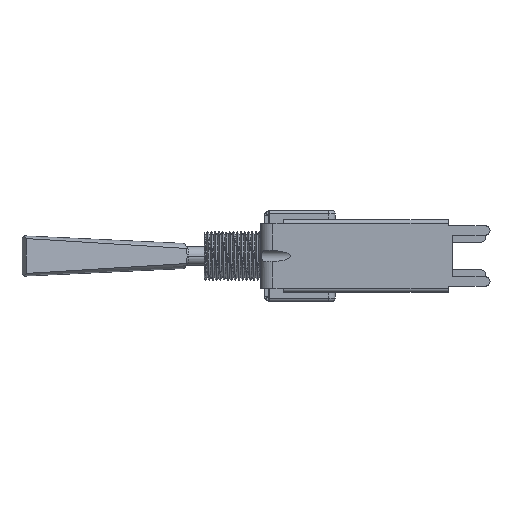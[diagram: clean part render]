
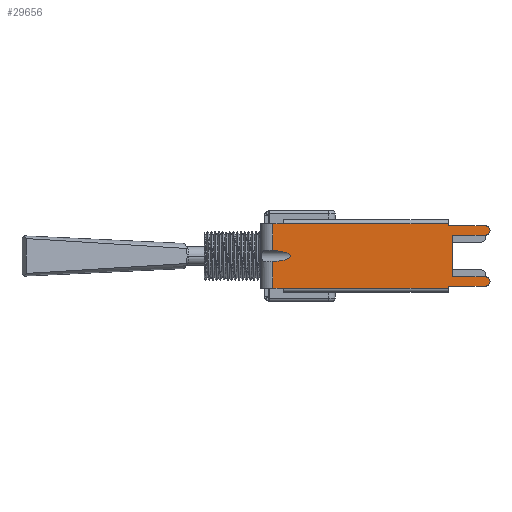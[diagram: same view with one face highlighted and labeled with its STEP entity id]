
A CAD part, left-side view. The second image highlights one B-rep face of the part: STEP entity #29656.
In plain terms, the highlighted planar face has unit normal (-1, 0, 0).
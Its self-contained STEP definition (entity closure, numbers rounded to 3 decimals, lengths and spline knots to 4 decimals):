
#773=DIRECTION('',(0.,0.,1.));
#774=VECTOR('',#773,0.1317);
#775=CARTESIAN_POINT('',(-0.385,0.1453,-0.16));
#776=LINE('',#775,#774);
#777=CARTESIAN_POINT('',(-0.385,0.1453,0.0283));
#778=CARTESIAN_POINT('',(-0.385,0.144,0.0282));
#779=CARTESIAN_POINT('',(-0.385,0.1416,0.0281));
#780=CARTESIAN_POINT('',(-0.385,0.1375,0.0278));
#781=CARTESIAN_POINT('',(-0.385,0.133,0.0274));
#782=CARTESIAN_POINT('',(-0.385,0.1284,0.027));
#783=CARTESIAN_POINT('',(-0.385,0.123,0.0264));
#784=CARTESIAN_POINT('',(-0.385,0.1171,0.0257));
#785=CARTESIAN_POINT('',(-0.385,0.1112,0.0248));
#786=CARTESIAN_POINT('',(-0.385,0.1059,0.0239));
#787=CARTESIAN_POINT('',(-0.385,0.0997,0.0227));
#788=CARTESIAN_POINT('',(-0.385,0.093,0.0212));
#789=CARTESIAN_POINT('',(-0.385,0.0863,0.0195));
#790=CARTESIAN_POINT('',(-0.385,0.0806,0.0177));
#791=CARTESIAN_POINT('',(-0.385,0.0758,0.0159));
#792=CARTESIAN_POINT('',(-0.385,0.0716,0.0142));
#793=CARTESIAN_POINT('',(-0.385,0.0681,0.0124));
#794=CARTESIAN_POINT('',(-0.385,0.0642,0.01));
#795=CARTESIAN_POINT('',(-0.385,0.0606,0.0071));
#796=CARTESIAN_POINT('',(-0.385,0.0581,0.0035));
#797=CARTESIAN_POINT('',(-0.385,0.0572,0.));
#798=CARTESIAN_POINT('',(-0.385,0.0581,-0.0035));
#799=CARTESIAN_POINT('',(-0.385,0.0606,-0.0071));
#800=CARTESIAN_POINT('',(-0.385,0.0642,-0.01));
#801=CARTESIAN_POINT('',(-0.385,0.0681,-0.0124));
#802=CARTESIAN_POINT('',(-0.385,0.0716,-0.0142));
#803=CARTESIAN_POINT('',(-0.385,0.0758,-0.0159));
#804=CARTESIAN_POINT('',(-0.385,0.0806,-0.0177));
#805=CARTESIAN_POINT('',(-0.385,0.0863,-0.0195));
#806=CARTESIAN_POINT('',(-0.385,0.093,-0.0212));
#807=CARTESIAN_POINT('',(-0.385,0.0997,-0.0227));
#808=CARTESIAN_POINT('',(-0.385,0.1059,-0.0239));
#809=CARTESIAN_POINT('',(-0.385,0.1112,-0.0248));
#810=CARTESIAN_POINT('',(-0.385,0.1171,-0.0257));
#811=CARTESIAN_POINT('',(-0.385,0.123,-0.0264));
#812=CARTESIAN_POINT('',(-0.385,0.1284,-0.027));
#813=CARTESIAN_POINT('',(-0.385,0.133,-0.0274));
#814=CARTESIAN_POINT('',(-0.385,0.1375,-0.0278));
#815=CARTESIAN_POINT('',(-0.385,0.1416,-0.0281));
#816=CARTESIAN_POINT('',(-0.385,0.144,-0.0282));
#817=CARTESIAN_POINT('',(-0.385,0.1453,-0.0283));
#819=DIRECTION('',(0.,0.,1.));
#820=VECTOR('',#819,0.1317);
#821=CARTESIAN_POINT('',(-0.385,0.1453,0.0283));
#822=LINE('',#821,#820);
#823=DIRECTION('',(0.,0.,-1.));
#824=VECTOR('',#823,0.01);
#825=CARTESIAN_POINT('',(-0.385,-0.7268,0.16));
#826=LINE('',#825,#824);
#827=DIRECTION('',(0.,-1.,0.));
#828=VECTOR('',#827,0.021);
#829=CARTESIAN_POINT('',(-0.385,-0.7268,0.15));
#830=LINE('',#829,#828);
#831=DIRECTION('',(0.,1.,0.));
#832=VECTOR('',#831,0.1635);
#833=CARTESIAN_POINT('',(-0.385,-0.9113,0.15));
#834=LINE('',#833,#832);
#835=CARTESIAN_POINT('',(-0.385,-0.9113,0.1265));
#836=DIRECTION('',(1.,0.,0.));
#837=DIRECTION('',(0.,0.,1.));
#838=AXIS2_PLACEMENT_3D('',#835,#836,#837);
#840=DIRECTION('',(0.,-1.,0.));
#841=VECTOR('',#840,0.1635);
#842=CARTESIAN_POINT('',(-0.385,-0.7478,0.103));
#843=LINE('',#842,#841);
#844=DIRECTION('',(0.,0.,1.));
#845=VECTOR('',#844,0.206);
#846=CARTESIAN_POINT('',(-0.385,-0.7478,-0.103));
#847=LINE('',#846,#845);
#848=DIRECTION('',(0.,1.,0.));
#849=VECTOR('',#848,0.1635);
#850=CARTESIAN_POINT('',(-0.385,-0.9113,-0.103));
#851=LINE('',#850,#849);
#852=CARTESIAN_POINT('',(-0.385,-0.9113,-0.1265));
#853=DIRECTION('',(1.,0.,0.));
#854=DIRECTION('',(0.,0.,1.));
#855=AXIS2_PLACEMENT_3D('',#852,#853,#854);
#857=DIRECTION('',(0.,-1.,0.));
#858=VECTOR('',#857,0.1635);
#859=CARTESIAN_POINT('',(-0.385,-0.7478,-0.15));
#860=LINE('',#859,#858);
#861=DIRECTION('',(0.,1.,0.));
#862=VECTOR('',#861,0.021);
#863=CARTESIAN_POINT('',(-0.385,-0.7478,-0.15));
#864=LINE('',#863,#862);
#865=DIRECTION('',(0.,0.,1.));
#866=VECTOR('',#865,0.01);
#867=CARTESIAN_POINT('',(-0.385,-0.7268,-0.16));
#868=LINE('',#867,#866);
#877=DIRECTION('',(0.,-1.,0.));
#878=VECTOR('',#877,0.054);
#879=CARTESIAN_POINT('',(-0.385,0.1453,-0.16));
#880=LINE('',#879,#878);
#894=DIRECTION('',(0.,1.,0.));
#895=VECTOR('',#894,0.818);
#896=CARTESIAN_POINT('',(-0.385,-0.7268,-0.16));
#897=LINE('',#896,#895);
#961=CARTESIAN_POINT('',(-0.385,0.1453,-0.0283));
#1028=CARTESIAN_POINT('',(-0.385,0.1453,0.0283));
#24689=DIRECTION('',(0.,-1.,0.));
#24690=VECTOR('',#24689,0.054);
#24691=CARTESIAN_POINT('',(-0.385,0.1453,0.16));
#24692=LINE('',#24691,#24690);
#24714=DIRECTION('',(0.,-1.,0.));
#24715=VECTOR('',#24714,0.818);
#24716=CARTESIAN_POINT('',(-0.385,0.0913,0.16));
#24717=LINE('',#24716,#24715);
#27739=CARTESIAN_POINT('',(-0.385,0.1453,-0.16));
#27740=VERTEX_POINT('',#27739);
#27747=CARTESIAN_POINT('',(-0.385,0.1453,0.16));
#27748=VERTEX_POINT('',#27747);
#27765=CARTESIAN_POINT('',(-0.385,-0.7478,-0.103));
#27766=CARTESIAN_POINT('',(-0.385,-0.7478,0.103));
#27767=VERTEX_POINT('',#27765);
#27768=VERTEX_POINT('',#27766);
#27785=CARTESIAN_POINT('',(-0.385,-0.9113,0.103));
#27786=VERTEX_POINT('',#27785);
#27787=CARTESIAN_POINT('',(-0.385,-0.9113,0.15));
#27788=VERTEX_POINT('',#27787);
#27793=CARTESIAN_POINT('',(-0.385,-0.9113,-0.15));
#27794=VERTEX_POINT('',#27793);
#27795=CARTESIAN_POINT('',(-0.385,-0.9113,-0.103));
#27796=VERTEX_POINT('',#27795);
#27813=VERTEX_POINT('',#961);
#27814=VERTEX_POINT('',#1028);
#27829=CARTESIAN_POINT('',(-0.385,-0.7268,0.16));
#27830=CARTESIAN_POINT('',(-0.385,-0.7268,0.15));
#27831=VERTEX_POINT('',#27829);
#27832=VERTEX_POINT('',#27830);
#27833=CARTESIAN_POINT('',(-0.385,-0.7478,0.15));
#27834=VERTEX_POINT('',#27833);
#27835=CARTESIAN_POINT('',(-0.385,-0.7478,-0.15));
#27836=CARTESIAN_POINT('',(-0.385,-0.7268,-0.15));
#27837=VERTEX_POINT('',#27835);
#27838=VERTEX_POINT('',#27836);
#27839=CARTESIAN_POINT('',(-0.385,-0.7268,-0.16));
#27840=VERTEX_POINT('',#27839);
#27897=CARTESIAN_POINT('',(-0.385,0.0913,0.16));
#27898=VERTEX_POINT('',#27897);
#27913=CARTESIAN_POINT('',(-0.385,0.0913,-0.16));
#27914=VERTEX_POINT('',#27913);
#29614=CARTESIAN_POINT('',(-0.385,0.1453,-0.16));
#29615=DIRECTION('',(-1.,0.,0.));
#29616=DIRECTION('',(0.,-1.,0.));
#29617=AXIS2_PLACEMENT_3D('',#29614,#29615,#29616);
#29618=PLANE('',#29617);
#29620=ORIENTED_EDGE('',*,*,#29619,.F.);
#29622=ORIENTED_EDGE('',*,*,#29621,.T.);
#29624=ORIENTED_EDGE('',*,*,#29623,.F.);
#29626=ORIENTED_EDGE('',*,*,#29625,.T.);
#29628=ORIENTED_EDGE('',*,*,#29627,.T.);
#29630=ORIENTED_EDGE('',*,*,#29629,.T.);
#29632=ORIENTED_EDGE('',*,*,#29631,.T.);
#29634=ORIENTED_EDGE('',*,*,#29633,.T.);
#29636=ORIENTED_EDGE('',*,*,#29635,.F.);
#29638=ORIENTED_EDGE('',*,*,#29637,.T.);
#29640=ORIENTED_EDGE('',*,*,#29639,.F.);
#29642=ORIENTED_EDGE('',*,*,#29641,.F.);
#29644=ORIENTED_EDGE('',*,*,#29643,.F.);
#29646=ORIENTED_EDGE('',*,*,#29645,.T.);
#29648=ORIENTED_EDGE('',*,*,#29647,.F.);
#29650=ORIENTED_EDGE('',*,*,#29649,.T.);
#29651=ORIENTED_EDGE('',*,*,#29604,.F.);
#29653=ORIENTED_EDGE('',*,*,#29652,.T.);
#29654=EDGE_LOOP('',(#29620,#29622,#29624,#29626,#29628,#29630,#29632,#29634,
#29636,#29638,#29640,#29642,#29644,#29646,#29648,#29650,#29651,#29653));
#29655=FACE_OUTER_BOUND('',#29654,.F.);
#29656=ADVANCED_FACE('',(#29655),#29618,.T.);
#818=B_SPLINE_CURVE_WITH_KNOTS('',3,(#777,#778,#779,#780,#781,#782,#783,#784,
#785,#786,#787,#788,#789,#790,#791,#792,#793,#794,#795,#796,#797,#798,#799,#800,
#801,#802,#803,#804,#805,#806,#807,#808,#809,#810,#811,#812,#813,#814,#815,#816,
#817),.UNSPECIFIED.,.F.,.F.,(4,1,1,1,1,1,1,1,1,1,1,1,1,1,1,1,1,1,1,1,1,1,1,1,1,
1,1,1,1,1,1,1,1,1,1,1,1,1,4),(0.,0.0039,0.0078,0.0156,0.0234,
0.0313,0.0469,0.0625,0.0781,0.0938,0.125,0.1563,0.1875,
0.2188,0.25,0.2813,0.3125,0.375,0.4375,0.5,0.5625,0.625,
0.6875,0.7188,0.75,0.7813,0.8125,0.8438,0.875,0.9063,
0.9219,0.9375,0.9531,0.9688,0.9766,0.9844,0.9922,
0.9961,1.),.UNSPECIFIED.);
#839=CIRCLE('',#838,0.0235);
#856=CIRCLE('',#855,0.0235);
#29604=EDGE_CURVE('',#27840,#27838,#868,.T.);
#29619=EDGE_CURVE('',#27740,#27914,#880,.T.);
#29621=EDGE_CURVE('',#27740,#27813,#776,.T.);
#29623=EDGE_CURVE('',#27814,#27813,#818,.T.);
#29625=EDGE_CURVE('',#27814,#27748,#822,.T.);
#29627=EDGE_CURVE('',#27748,#27898,#24692,.T.);
#29629=EDGE_CURVE('',#27898,#27831,#24717,.T.);
#29631=EDGE_CURVE('',#27831,#27832,#826,.T.);
#29633=EDGE_CURVE('',#27832,#27834,#830,.T.);
#29635=EDGE_CURVE('',#27788,#27834,#834,.T.);
#29637=EDGE_CURVE('',#27788,#27786,#839,.T.);
#29639=EDGE_CURVE('',#27768,#27786,#843,.T.);
#29641=EDGE_CURVE('',#27767,#27768,#847,.T.);
#29643=EDGE_CURVE('',#27796,#27767,#851,.T.);
#29645=EDGE_CURVE('',#27796,#27794,#856,.T.);
#29647=EDGE_CURVE('',#27837,#27794,#860,.T.);
#29649=EDGE_CURVE('',#27837,#27838,#864,.T.);
#29652=EDGE_CURVE('',#27840,#27914,#897,.T.);
